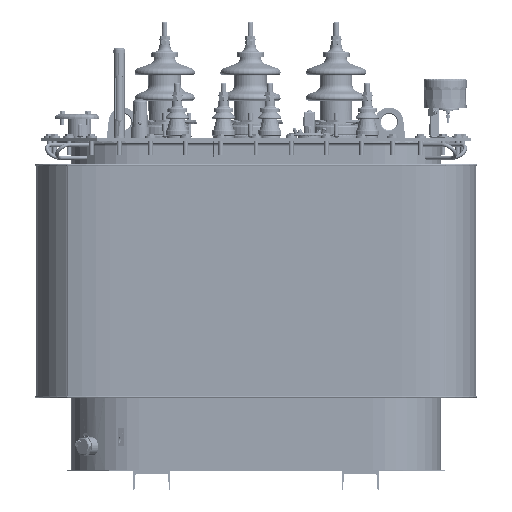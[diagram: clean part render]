
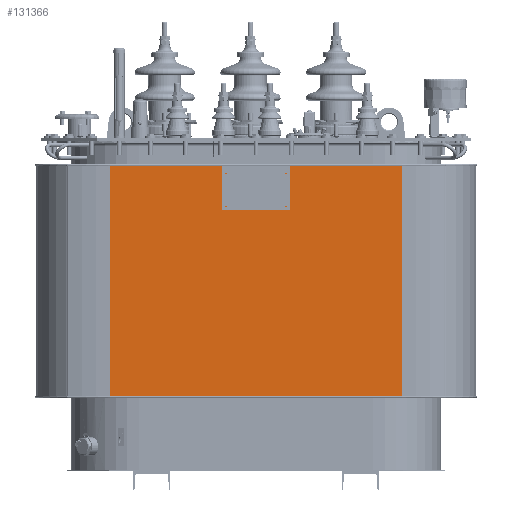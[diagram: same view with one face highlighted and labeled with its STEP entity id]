
A CAD part, front view. The second image highlights one B-rep face of the part: STEP entity #131366.
In plain terms, the highlighted planar face has unit normal (0, 1, 0).
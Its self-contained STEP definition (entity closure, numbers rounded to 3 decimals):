
#8953=LINE('',#267570,#16525);
#8981=LINE('',#267677,#16553);
#8982=LINE('',#267680,#16554);
#8983=LINE('',#267681,#16555);
#16525=VECTOR('',#172139,50.);
#16553=VECTOR('',#172253,50.);
#16554=VECTOR('',#172258,63.);
#16555=VECTOR('',#172259,63.);
#30430=FACE_OUTER_BOUND('',#43925,.T.);
#43925=EDGE_LOOP('',(#113130,#113131,#113132,#113133));
#60487=VERTEX_POINT('',#267564);
#60489=VERTEX_POINT('',#267568);
#60524=VERTEX_POINT('',#267674);
#60525=VERTEX_POINT('',#267676);
#77913=EDGE_CURVE('',#60487,#60489,#8953,.T.);
#77966=EDGE_CURVE('',#60524,#60525,#8981,.T.);
#77968=EDGE_CURVE('',#60487,#60524,#8982,.T.);
#77969=EDGE_CURVE('',#60489,#60525,#8983,.T.);
#113130=ORIENTED_EDGE('',*,*,#77968,.F.);
#113131=ORIENTED_EDGE('',*,*,#77913,.T.);
#113132=ORIENTED_EDGE('',*,*,#77969,.T.);
#113133=ORIENTED_EDGE('',*,*,#77966,.F.);
#116188=PLANE('',#142505);
#131366=ADVANCED_FACE('',(#30430),#116188,.F.);
#142505=AXIS2_PLACEMENT_3D('',#267679,#172256,#172257);
#172139=DIRECTION('',(0.,0.,1.));
#172253=DIRECTION('',(0.,0.,1.));
#172256=DIRECTION('center_axis',(0.,-1.,0.));
#172257=DIRECTION('ref_axis',(1.,0.,0.));
#172258=DIRECTION('',(1.,0.,0.));
#172259=DIRECTION('',(1.,0.,0.));
#267564=CARTESIAN_POINT('',(-130.656,-89.632,31.027));
#267568=CARTESIAN_POINT('',(-130.656,-89.632,81.027));
#267570=CARTESIAN_POINT('',(-130.656,-89.632,31.027));
#267674=CARTESIAN_POINT('',(-67.656,-89.632,31.027));
#267676=CARTESIAN_POINT('',(-67.656,-89.632,81.027));
#267677=CARTESIAN_POINT('',(-67.656,-89.632,31.027));
#267679=CARTESIAN_POINT('Origin',(-130.656,-89.632,31.027));
#267680=CARTESIAN_POINT('',(-130.656,-89.632,31.027));
#267681=CARTESIAN_POINT('',(-130.656,-89.632,81.027));
